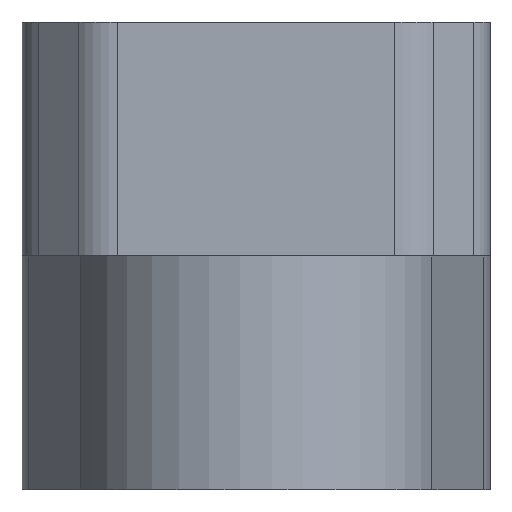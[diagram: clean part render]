
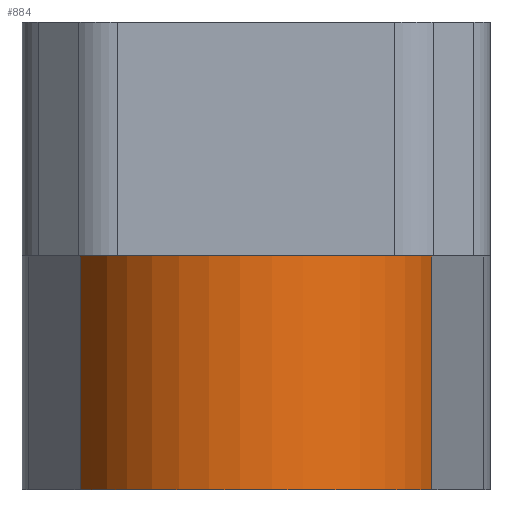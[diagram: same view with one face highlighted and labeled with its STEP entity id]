
A CAD part, left-side view. The second image highlights one B-rep face of the part: STEP entity #884.
In plain terms, the highlighted cylindrical face has radius 10 mm (diameter 20 mm), a partial arc.
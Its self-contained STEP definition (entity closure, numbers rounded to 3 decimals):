
#24 = EDGE_CURVE ( 'NONE', #1693, #1084, #531, .T. ) ;
#39 = CARTESIAN_POINT ( 'NONE',  ( -2.588, -9.659, 12.85 ) ) ;
#139 = VECTOR ( 'NONE', #539, 1000. ) ;
#179 = DIRECTION ( 'NONE',  ( 0., 0., 1. ) ) ;
#194 = DIRECTION ( 'NONE',  ( -1., 0., 0. ) ) ;
#216 = CARTESIAN_POINT ( 'NONE',  ( -2.588, 9.659, 0. ) ) ;
#226 = CARTESIAN_POINT ( 'NONE',  ( -2.588, -9.659, -12.85 ) ) ;
#299 = ORIENTED_EDGE ( 'NONE', *, *, #1301, .F. ) ;
#387 = CYLINDRICAL_SURFACE ( 'NONE', #672, 10. ) ;
#403 = CARTESIAN_POINT ( 'NONE',  ( -2.588, 9.659, 12.85 ) ) ;
#407 = EDGE_LOOP ( 'NONE', ( #299, #659, #1148, #1131 ) ) ;
#455 = CIRCLE ( 'NONE', #645, 10. ) ;
#531 = LINE ( 'NONE', #403, #139 ) ;
#539 = DIRECTION ( 'NONE',  ( 0., 0., -1. ) ) ;
#645 = AXIS2_PLACEMENT_3D ( 'NONE', #1497, #179, #1240 ) ;
#659 = ORIENTED_EDGE ( 'NONE', *, *, #1374, .T. ) ;
#672 = AXIS2_PLACEMENT_3D ( 'NONE', #1034, #925, #1156 ) ;
#703 = CARTESIAN_POINT ( 'NONE',  ( 0., 0., 0. ) ) ;
#753 = EDGE_CURVE ( 'NONE', #1084, #1689, #455, .T. ) ;
#797 = VERTEX_POINT ( 'NONE', #1672 ) ;
#884 = ADVANCED_FACE ( 'NONE', ( #1679 ), #387, .T. ) ;
#925 = DIRECTION ( 'NONE',  ( 0., 0., -1. ) ) ;
#983 = DIRECTION ( 'NONE',  ( 0., 0., -1. ) ) ;
#1034 = CARTESIAN_POINT ( 'NONE',  ( 0., 0., 12.85 ) ) ;
#1036 = AXIS2_PLACEMENT_3D ( 'NONE', #703, #1227, #194 ) ;
#1084 = VERTEX_POINT ( 'NONE', #1421 ) ;
#1085 = LINE ( 'NONE', #39, #1109 ) ;
#1109 = VECTOR ( 'NONE', #983, 1000. ) ;
#1131 = ORIENTED_EDGE ( 'NONE', *, *, #753, .T. ) ;
#1148 = ORIENTED_EDGE ( 'NONE', *, *, #24, .T. ) ;
#1156 = DIRECTION ( 'NONE',  ( -1., 0., 0. ) ) ;
#1227 = DIRECTION ( 'NONE',  ( 0., 0., -1. ) ) ;
#1240 = DIRECTION ( 'NONE',  ( 1., 0., 0. ) ) ;
#1301 = EDGE_CURVE ( 'NONE', #797, #1689, #1085, .T. ) ;
#1374 = EDGE_CURVE ( 'NONE', #797, #1693, #1384, .T. ) ;
#1384 = CIRCLE ( 'NONE', #1036, 10. ) ;
#1421 = CARTESIAN_POINT ( 'NONE',  ( -2.588, 9.659, -12.85 ) ) ;
#1497 = CARTESIAN_POINT ( 'NONE',  ( 0., 0., -12.85 ) ) ;
#1672 = CARTESIAN_POINT ( 'NONE',  ( -2.588, -9.659, 0. ) ) ;
#1679 = FACE_OUTER_BOUND ( 'NONE', #407, .T. ) ;
#1689 = VERTEX_POINT ( 'NONE', #226 ) ;
#1693 = VERTEX_POINT ( 'NONE', #216 ) ;
